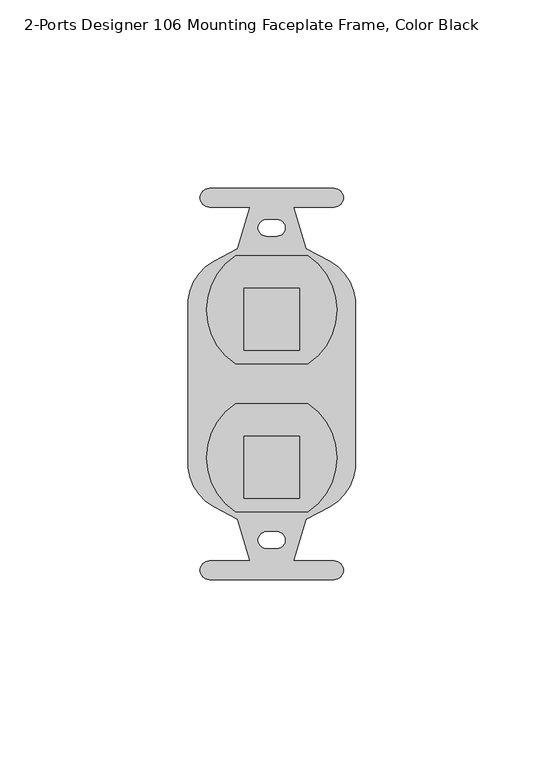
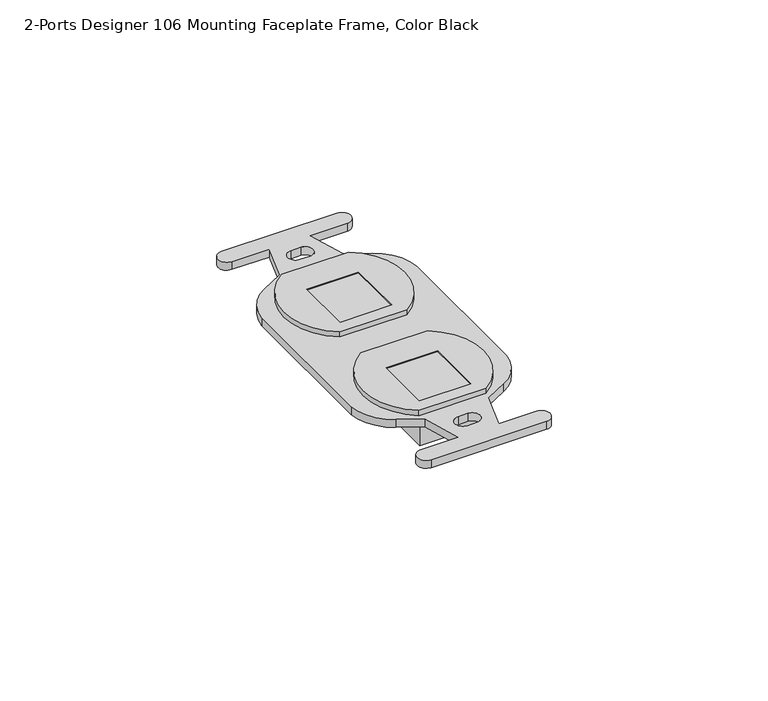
"""IFC4 building model written with IfcOpenShell, lengths in millimetres: electric appliance geometry, Data_Device-Network-Leviton-QuickPort-Duplex : 2-Ports Designer 106 Mounting Faceplate Frame, Color Black."""

import ifcopenshell
import ifcopenshell.guid

model = None  # the IFC model being written
_history = None  # IfcOwnerHistory: only IFC2X3 demands one
_inside = {}  # id of a spatial element -> (the spatial element, [elements in it])
_under = {}  # id of a project, library or spatial element -> (it, [spatial elements below it])
_declared = {}  # id of a project -> (the project, [libraries it declares])
_typed = {}  # id of a type object -> (the type object, [elements of that type])
_made_of = {}  # id of a material, layer set ... -> (it, [elements and type objects made of it])


def new_model(schema):
    """Start an empty IFC model of exactly this schema.

    Asked for "IFC4X3", IfcOpenShell would pick the latest addendum, in which some entities
    have other attributes; the version numbers below select the first issue.
    IFC2X3 requires an IfcOwnerHistory on every rooted entity: one is made here for all.
    """
    global model, _history
    if schema == "IFC4X3":
        model = ifcopenshell.file(schema_version=(4, 3, 0, 0))
    else:
        model = ifcopenshell.file(schema=schema)
    _inside.clear()
    _under.clear()
    _declared.clear()
    _typed.clear()
    _made_of.clear()
    _history = None
    if model.schema == "IFC2X3":
        org = make("IfcOrganization", Name="unknown")
        user = make(
            "IfcPersonAndOrganization",
            ThePerson=make("IfcPerson", FamilyName="unknown"),
            TheOrganization=org,
        )
        app = make(
            "IfcApplication",
            ApplicationDeveloper=org,
            Version="unknown",
            ApplicationFullName="unknown",
            ApplicationIdentifier="unknown",
        )
        _history = make(
            "IfcOwnerHistory",
            OwningUser=user,
            OwningApplication=app,
            ChangeAction="ADDED",
            CreationDate=0,
        )
    return model


def make(cls, **values):
    """One entity of the class cls with the attributes given. An attribute that is None is left unset."""
    return model.create_entity(
        cls, **{name: value for name, value in values.items() if value is not None}
    )


def rooted(cls, **values):
    """An entity with a GlobalId (a new one), such as an element, a storey or a relation."""
    return make(cls, GlobalId=ifcopenshell.guid.new(), OwnerHistory=_history, **values)


def si_unit(unit_type, name, prefix=None):
    """IfcSIUnit, for example si_unit("LENGTHUNIT", "METRE", prefix="MILLI")."""
    return make("IfcSIUnit", UnitType=unit_type, Prefix=prefix, Name=name)


def assignment(units):
    """IfcUnitAssignment: the units of a project."""
    return None if units is None else make("IfcUnitAssignment", Units=units)


def point(xyz):
    """IfcCartesianPoint."""
    return None if xyz is None else make("IfcCartesianPoint", Coordinates=xyz)


def direction(xyz):
    """IfcDirection."""
    return None if xyz is None else make("IfcDirection", DirectionRatios=xyz)


def frame(location, z_axis=None, x_axis=None):
    """IfcAxis2Placement3D, a coordinate frame: its origin and axes. An axis left out is left unset."""
    return make(
        "IfcAxis2Placement3D",
        Location=point(location),
        Axis=direction(z_axis),
        RefDirection=direction(x_axis),
    )


def origin():
    """The frame at (0, 0, 0) with its axes left unset."""
    return frame((0.0, 0.0, 0.0))


def origin_with_axes():
    """The frame at (0, 0, 0) with the z axis (0, 0, 1) and the x axis (1, 0, 0) written out."""
    return frame((0.0, 0.0, 0.0), z_axis=(0.0, 0.0, 1.0), x_axis=(1.0, 0.0, 0.0))


def place(relative_to, where):
    """IfcLocalPlacement: puts the frame where relative to a parent placement (None: the world)."""
    return make(
        "IfcLocalPlacement", PlacementRelTo=relative_to, RelativePlacement=where
    )


def context(
    kind, dimensions, precision=None, world=None, true_north=None, identifier=None
):
    """IfcGeometricRepresentationContext, for example the 3D "Model" context."""
    return make(
        "IfcGeometricRepresentationContext",
        ContextIdentifier=identifier,
        ContextType=kind,
        CoordinateSpaceDimension=dimensions,
        Precision=precision,
        WorldCoordinateSystem=world,
        TrueNorth=true_north,
    )


def project(units=None, contexts=None):
    """IfcProject with its units and contexts."""
    return rooted(
        "IfcProject",
        Name="project",
        RepresentationContexts=contexts,
        UnitsInContext=assignment(units),
    )


def spatial(cls, under=None, at=None, **own):
    """A site, building, storey or space (cls), placed at a placement, below another one or the project."""
    s = rooted(cls, ObjectPlacement=at, **own)
    if under is not None:
        _under.setdefault(under.id(), (under, []))[1].append(s)
    return s


def polyline(points):
    """IfcPolyline through the points."""
    return make("IfcPolyline", Points=[point(p) for p in points])


def circle_curve(where, radius):
    """IfcCircle in the frame where."""
    return make("IfcCircle", Position=where, Radius=radius)


def outline(outer, holes=None, kind="AREA"):
    """IfcArbitraryClosedProfileDef: a profile drawn as a closed curve; with holes, ...WithVoids."""
    if holes is None:
        return make("IfcArbitraryClosedProfileDef", ProfileType=kind, OuterCurve=outer)
    return make(
        "IfcArbitraryProfileDefWithVoids",
        ProfileType=kind,
        OuterCurve=outer,
        InnerCurves=holes,
    )


def extrude(swept, where, along, depth):
    """IfcExtrudedAreaSolid: the profile swept, set in the frame where, extruded along a direction by depth."""
    return make(
        "IfcExtrudedAreaSolid",
        SweptArea=swept,
        Position=where,
        ExtrudedDirection=direction(along),
        Depth=depth,
    )


def shape(context_of_items, identifier, shape_type, items):
    """IfcShapeRepresentation: the items that make up one representation, for example the "Body"."""
    return make(
        "IfcShapeRepresentation",
        ContextOfItems=context_of_items,
        RepresentationIdentifier=identifier,
        RepresentationType=shape_type,
        Items=items,
    )


def source(mapping_origin, context_of_items, identifier, shape_type, items):
    """IfcRepresentationMap: a shape defined once, which mapped items show again and again."""
    return make(
        "IfcRepresentationMap",
        MappingOrigin=mapping_origin,
        MappedRepresentation=shape(context_of_items, identifier, shape_type, items),
    )


def transform(
    local_origin,
    x_axis=None,
    y_axis=None,
    z_axis=None,
    scale=None,
    scale2=None,
    scale3=None,
    uniform=True,
):
    """IfcCartesianTransformationOperator3D, or its non-uniform kind. x_axis, y_axis, z_axis: its Axis1, 2, 3."""
    if uniform:
        return make(
            "IfcCartesianTransformationOperator3D",
            Axis1=direction(x_axis),
            Axis2=direction(y_axis),
            LocalOrigin=point(local_origin),
            Scale=scale,
            Axis3=direction(z_axis),
        )
    return make(
        "IfcCartesianTransformationOperator3DnonUniform",
        Axis1=direction(x_axis),
        Axis2=direction(y_axis),
        LocalOrigin=point(local_origin),
        Scale=scale,
        Axis3=direction(z_axis),
        Scale2=scale2,
        Scale3=scale3,
    )


def mapped(mapping_source, mapping_target):
    """IfcMappedItem: shows the shape of a source again, moved by a transform."""
    return make(
        "IfcMappedItem", MappingSource=mapping_source, MappingTarget=mapping_target
    )


def made_of(thing, what):
    """Note that an element or type object is made of a material, layer set ...; save() writes the relation."""
    if what is not None:
        _made_of.setdefault(what.id(), (what, []))[1].append(thing)
    return thing


def element(
    cls,
    number,
    at=None,
    inside=None,
    cuts=None,
    type_object=None,
    material=None,
    context=None,
    identifier="Body",
    shape_type=None,
    held_by="IfcProductDefinitionShape",
    body=None,
    shapes=None,
    **own,
):
    """One element of the class cls, such as IfcWall. Its Tag is "e" and its number.

    at: its placement. inside: the storey or other place that contains it. cuts: it is an
    opening in that element (IfcRelVoidsElement). A single representation is given by context,
    identifier, shape_type and body (its items); several are given by shapes. held_by: the class
    of the entity that holds the representations. save() writes the other relations.
    """
    e = rooted(cls, Tag="e%d" % number, ObjectPlacement=at, **own)
    if body is not None:
        shapes = [shape(context, identifier, shape_type, body)]
    if shapes is not None:
        e.Representation = make(held_by, Representations=shapes)
    if inside is not None:
        _inside.setdefault(inside.id(), (inside, []))[1].append(e)
    if cuts is not None:
        rooted(
            "IfcRelVoidsElement", RelatingBuildingElement=cuts, RelatedOpeningElement=e
        )
    if type_object is not None:
        _typed.setdefault(type_object.id(), (type_object, []))[1].append(e)
    return made_of(e, material)


def aggregate(whole, parts):
    """IfcRelAggregates: a whole, such as a stair, and the parts it consists of."""
    return rooted("IfcRelAggregates", RelatingObject=whole, RelatedObjects=parts)


def save(model, path):
    """Write the relations noted so far, then the file.

    IfcRelAggregates (storeys below a building ...), IfcRelContainedInSpatialStructure (elements
    in a storey), IfcRelDefinesByType, IfcRelAssociatesMaterial and IfcRelDeclares: one each for
    every whole, place, type object, material and project.
    """
    for whole, parts in _under.values():
        aggregate(whole, parts)
    for where, things in _inside.values():
        rooted(
            "IfcRelContainedInSpatialStructure",
            RelatedElements=things,
            RelatingStructure=where,
        )
    for kind, things in _typed.values():
        rooted("IfcRelDefinesByType", RelatedObjects=things, RelatingType=kind)
    for what, things in _made_of.values():
        rooted("IfcRelAssociatesMaterial", RelatedObjects=things, RelatingMaterial=what)
    for by, libraries in _declared.values():
        rooted("IfcRelDeclares", RelatingContext=by, RelatedDefinitions=libraries)
    model.write(path)


def plane_surface(at):
    """IfcPlane: the flat surface through the origin of the frame at, square to its z axis."""
    return make("IfcPlane", Position=at)


def cylinder_surface(at, radius):
    """IfcCylindricalSurface: all points at the distance radius from the z axis of the frame at."""
    return make("IfcCylindricalSurface", Position=at, Radius=radius)


def revolved_surface(curve, axis_point, axis_direction):
    """IfcSurfaceOfRevolution: the curve turned about the line through axis_point along axis_direction."""
    return make(
        "IfcSurfaceOfRevolution",
        SweptCurve=make("IfcArbitraryOpenProfileDef", ProfileType="CURVE", Curve=curve),
        AxisPosition=make("IfcAxis1Placement", Location=point(axis_point), Axis=direction(axis_direction)),
    )


def advanced_brep(points, edges, surfaces, faces):
    """IfcAdvancedBrep: a solid bounded by faces that lie on surfaces and meet in shared edges.

    An edge is (start, end): straight between two places in points (the first is 0);
    or (start, end, curve); or (start, end, curve, False) where it runs against its curve.
    A face is (place in surfaces, loops), or (place, loops, False) where it looks against
    its surface's normal. A loop lists edges by number (the first is 1), with a minus sign
    where the edge is run from its end to its start. The first loop is the outer one.
    """
    corners = [point(p) for p in points]
    vertices = [make("IfcVertexPoint", VertexGeometry=c) for c in corners]
    made = []
    for start, end, *more in edges:
        made.append(
            make(
                "IfcEdgeCurve",
                EdgeStart=vertices[start],
                EdgeEnd=vertices[end],
                EdgeGeometry=more[0] if more else make("IfcPolyline", Points=[corners[start], corners[end]]),
                SameSense=more[1] if len(more) > 1 else True,
            )
        )
    hull = []
    for where, loops, *sense in faces:
        bounds = []
        for j, loop in enumerate(loops):
            ring = [make("IfcOrientedEdge", EdgeElement=made[abs(k) - 1], Orientation=k > 0) for k in loop]
            bounds.append(
                make(
                    "IfcFaceOuterBound" if j == 0 else "IfcFaceBound",
                    Bound=make("IfcEdgeLoop", EdgeList=ring),
                    Orientation=True,
                )
            )
        hull.append(make("IfcAdvancedFace", Bounds=bounds, FaceSurface=surfaces[where], SameSense=sense[0] if sense else True))
    return make("IfcAdvancedBrep", Outer=make("IfcClosedShell", CfsFaces=hull))


def electric_appliance_2_ports_designer_106_mounting_faceplate_7aad72b4(model_context):
    return source(origin(), model_context, "Body", "SolidModel", [
        advanced_brep(
        [(-32.661072, -28.4547175, 3.924), (-13.439128, -28.4547175, 3.924), (-13.439128, 0.2472825, 3.924), (-32.661072, 0.2472825, 3.924), (-30.4161, -8.3887175, 3.924), (-15.6841, -8.3887175, 3.924), (-15.6841, -24.8225175, 3.924), (-30.4161, -24.8225175, 3.924), (-32.661072, 10.7752825, 3.924), (-13.439128, 10.7752825, 3.924), (-13.439128, 39.4772825, 3.924), (-32.661072, 39.4772825, 3.924), (-30.4161, 14.4074825, 3.924), (-30.4161, 30.8412825, 3.924), (-15.6841, 30.8412825, 3.924), (-15.6841, 14.4074825, 3.924), (-6.5001, 57.3972825, 0.0), (-6.5001, 52.3972825, 0.0), (-17.2501, 52.3972825, 0.0), (-13.9501, 41.3972825, 0.0), (-7.629071, 38.0236727, 0.0), (-0.8001, 27.6939674, 0.0), (-0.8001, -16.7854024, 0.0), (-7.629071, -27.1151077, 0.0), (-13.9501, -30.4887175, 0.0), (-17.2501, -41.4887175, 0.0), (-6.5001, -41.4887175, 0.0), (-6.5001, -46.4887175, 0.0), (-39.5501, -46.4887175, 0.0), (-39.5501, -41.4887175, 0.0), (-28.8001, -41.4887175, 0.0), (-32.1001, -30.4887175, 0.0), (-38.421129, -27.1151077, 0.0), (-45.2501, -16.7854024, 0.0), (-45.2501, 27.6939674, 0.0), (-38.421129, 38.0236727, 0.0), (-32.1001, 41.3972825, 0.0), (-28.8001, 52.3972825, 0.0), (-39.5501, 52.3972825, 0.0), (-39.5501, 57.3972825, 0.0), (-24.4501, -38.1887175, 0.0), (-21.6501, -38.1887175, 0.0), (-21.6501, -33.7887175, 0.0), (-24.4501, -33.7887175, 0.0), (-24.4501, 49.0972825, 0.0), (-24.4501, 44.6972825, 0.0), (-21.6501, 44.6972825, 0.0), (-21.6501, 49.0972825, 0.0), (-14.1351, 11.5973314, 0.0), (-14.1351, 36.068785, 0.0), (-31.9151, 36.068785, 0.0), (-31.9151, 11.5973314, 0.0), (-31.9151, -3.161215, 0.0), (-31.9151, -27.6326686, 0.0), (-14.1351, -27.6326686, 0.0), (-14.1351, -3.161215, 0.0), (-32.661072, -28.4547175, 2.4), (-13.439128, -28.4547175, 2.4), (-13.439128, 0.2472825, 2.4), (-32.661072, 0.2472825, 2.4), (-30.4161, -8.3887175, -7.506), (-15.6841, -8.3887175, -7.506), (-15.6841, -24.8225175, -7.506), (-30.4161, -24.8225175, -7.506), (-32.661072, 10.7752825, 2.4), (-13.439128, 10.7752825, 2.4), (-13.439128, 39.4772825, 2.4), (-32.661072, 39.4772825, 2.4), (-30.4161, 14.4074825, -7.506), (-30.4161, 30.8412825, -7.506), (-15.6841, 30.8412825, -7.506), (-15.6841, 14.4074825, -7.506), (-6.5001, 57.3972825, 2.4), (-39.5501, 57.3972825, 2.4), (-39.5501, 52.3972825, 2.4), (-28.8001, 52.3972825, 2.4), (-32.1001, 41.3972825, 2.4), (-38.421129, 38.0236727, 2.4), (-45.2501, 27.6939674, 2.4), (-45.2501, -16.7854024, 2.4), (-38.421129, -27.1151077, 2.4), (-32.1001, -30.4887175, 2.4), (-28.8001, -41.4887175, 2.4), (-39.5501, -41.4887175, 2.4), (-39.5501, -46.4887175, 2.4), (-6.5001, -46.4887175, 2.4), (-6.5001, -41.4887175, 2.4), (-17.2501, -41.4887175, 2.4), (-13.9501, -30.4887175, 2.4), (-7.629071, -27.1151077, 2.4), (-0.8001, -16.7854024, 2.4), (-0.8001, 27.6939674, 2.4), (-7.629071, 38.0236727, 2.4), (-13.9501, 41.3972825, 2.4), (-17.2501, 52.3972825, 2.4), (-6.5001, 52.3972825, 2.4), (-24.4501, -38.1887175, 2.4), (-24.4501, -33.7887175, 2.4), (-21.6501, -33.7887175, 2.4), (-21.6501, -38.1887175, 2.4), (-24.4501, 49.0972825, 2.4), (-21.6501, 49.0972825, 2.4), (-21.6501, 44.6972825, 2.4), (-24.4501, 44.6972825, 2.4), (-14.1351, 11.5973314, -7.506), (-31.9151, 11.5973314, -7.506), (-31.9151, 36.068785, -7.506), (-14.1351, 36.068785, -7.506), (-31.9151, -3.161215, -7.506), (-14.1351, -3.161215, -7.506), (-14.1351, -27.6326686, -7.506), (-31.9151, -27.6326686, -7.506)],
        [
            (0, 1),
            (1, 2, circle_curve(frame((-23.0501, -14.1037175, 3.924), z_axis=(0.0, 0.0, 1.0), x_axis=(1.0, 0.0, 0.0)), 17.272)),
            (2, 3),
            (3, 0, circle_curve(frame((-23.0501, -14.1037175, 3.924), z_axis=(0.0, 0.0, 1.0), x_axis=(1.0, 0.0, 0.0)), 17.272)),
            (4, 5),
            (5, 6),
            (6, 7),
            (7, 4),
            (8, 9),
            (9, 10, circle_curve(frame((-23.0501, 25.1262825, 3.924), z_axis=(0.0, 0.0, 1.0), x_axis=(1.0, 0.0, 0.0)), 17.272)),
            (10, 11),
            (11, 8, circle_curve(frame((-23.0501, 25.1262825, 3.924), z_axis=(0.0, 0.0, 1.0), x_axis=(1.0, 0.0, 0.0)), 17.272)),
            (12, 13),
            (13, 14),
            (14, 15),
            (15, 12),
            (16, 17, circle_curve(frame((-6.5001, 54.8972825, 0.0), z_axis=(0.0, 0.0, -1.0), x_axis=(1.0, 0.0, 0.0)), 2.5)),
            (17, 18),
            (18, 19),
            (19, 20),
            (20, 21, circle_curve(frame((-13.7501, 26.5548888, 0.0), z_axis=(0.0, 0.0, -1.0), x_axis=(1.0, 0.0, 0.0)), 13.0)),
            (21, 22),
            (22, 23, circle_curve(frame((-13.7501, -15.6463238, 0.0), z_axis=(0.0, 0.0, -1.0), x_axis=(1.0, 0.0, 0.0)), 13.0)),
            (23, 24),
            (24, 25),
            (25, 26),
            (26, 27, circle_curve(frame((-6.5001, -43.9887175, 0.0), z_axis=(0.0, 0.0, -1.0), x_axis=(1.0, 0.0, 0.0)), 2.5)),
            (27, 28),
            (28, 29, circle_curve(frame((-39.5501, -43.9887175, 0.0), z_axis=(0.0, 0.0, -1.0), x_axis=(1.0, 0.0, 0.0)), 2.5)),
            (29, 30),
            (30, 31),
            (31, 32),
            (32, 33, circle_curve(frame((-32.3001, -15.6463238, 0.0), z_axis=(0.0, 0.0, -1.0), x_axis=(1.0, 0.0, 0.0)), 13.0)),
            (33, 34),
            (34, 35, circle_curve(frame((-32.3001, 26.5548888, 0.0), z_axis=(0.0, 0.0, -1.0), x_axis=(1.0, 0.0, 0.0)), 13.0)),
            (35, 36),
            (36, 37),
            (37, 38),
            (38, 39, circle_curve(frame((-39.5501, 54.8972825, 0.0), z_axis=(0.0, 0.0, -1.0), x_axis=(1.0, 0.0, 0.0)), 2.5)),
            (39, 16),
            (40, 41),
            (41, 42, circle_curve(frame((-21.6501, -35.9887175, 0.0), z_axis=(0.0, 0.0, 1.0), x_axis=(1.0, 0.0, 0.0)), 2.2)),
            (42, 43),
            (43, 40, circle_curve(frame((-24.4501, -35.9887175, 0.0), z_axis=(0.0, 0.0, 1.0), x_axis=(1.0, 0.0, 0.0)), 2.2)),
            (44, 45, circle_curve(frame((-24.4501, 46.8972825, 0.0), z_axis=(0.0, 0.0, 1.0), x_axis=(1.0, 0.0, 0.0)), 2.2)),
            (45, 46),
            (46, 47, circle_curve(frame((-21.6501, 46.8972825, 0.0), z_axis=(0.0, 0.0, 1.0), x_axis=(1.0, 0.0, 0.0)), 2.2)),
            (47, 44),
            (48, 49),
            (49, 50),
            (50, 51),
            (51, 48),
            (52, 53),
            (53, 54),
            (54, 55),
            (55, 52),
            (0, 56),
            (56, 57),
            (57, 1),
            (57, 58, circle_curve(frame((-23.0501, -14.1037175, 2.4), z_axis=(0.0, 0.0, 1.0), x_axis=(1.0, 0.0, 0.0)), 17.272)),
            (58, 2),
            (58, 59),
            (59, 3),
            (59, 56, circle_curve(frame((-23.0501, -14.1037175, 2.4), z_axis=(0.0, 0.0, 1.0), x_axis=(1.0, 0.0, 0.0)), 17.272)),
            (4, 60),
            (60, 61),
            (61, 5),
            (61, 62),
            (62, 6),
            (62, 63),
            (63, 7),
            (63, 60),
            (8, 64),
            (64, 65),
            (65, 9),
            (65, 66, circle_curve(frame((-23.0501, 25.1262825, 2.4), z_axis=(0.0, 0.0, 1.0), x_axis=(1.0, 0.0, 0.0)), 17.272)),
            (66, 10),
            (66, 67),
            (67, 11),
            (67, 64, circle_curve(frame((-23.0501, 25.1262825, 2.4), z_axis=(0.0, 0.0, 1.0), x_axis=(1.0, 0.0, 0.0)), 17.272)),
            (12, 68),
            (68, 69),
            (69, 13),
            (69, 70),
            (70, 14),
            (70, 71),
            (71, 15),
            (71, 68),
            (72, 73),
            (73, 74, circle_curve(frame((-39.5501, 54.8972825, 2.4), z_axis=(0.0, 0.0, 1.0), x_axis=(1.0, 0.0, 0.0)), 2.5)),
            (74, 75),
            (75, 76),
            (76, 77),
            (77, 78, circle_curve(frame((-32.3001, 26.5548888, 2.4), z_axis=(0.0, 0.0, 1.0), x_axis=(1.0, 0.0, 0.0)), 13.0)),
            (78, 79),
            (79, 80, circle_curve(frame((-32.3001, -15.6463238, 2.4), z_axis=(0.0, 0.0, 1.0), x_axis=(1.0, 0.0, 0.0)), 13.0)),
            (80, 81),
            (81, 82),
            (82, 83),
            (83, 84, circle_curve(frame((-39.5501, -43.9887175, 2.4), z_axis=(0.0, 0.0, 1.0), x_axis=(1.0, 0.0, 0.0)), 2.5)),
            (84, 85),
            (85, 86, circle_curve(frame((-6.5001, -43.9887175, 2.4), z_axis=(0.0, 0.0, 1.0), x_axis=(1.0, 0.0, 0.0)), 2.5)),
            (86, 87),
            (87, 88),
            (88, 89),
            (89, 90, circle_curve(frame((-13.7501, -15.6463238, 2.4), z_axis=(0.0, 0.0, 1.0), x_axis=(1.0, 0.0, 0.0)), 13.0)),
            (90, 91),
            (91, 92, circle_curve(frame((-13.7501, 26.5548888, 2.4), z_axis=(0.0, 0.0, 1.0), x_axis=(1.0, 0.0, 0.0)), 13.0)),
            (92, 93),
            (93, 94),
            (94, 95),
            (95, 72, circle_curve(frame((-6.5001, 54.8972825, 2.4), z_axis=(0.0, 0.0, 1.0), x_axis=(1.0, 0.0, 0.0)), 2.5)),
            (96, 97, circle_curve(frame((-24.4501, -35.9887175, 2.4), z_axis=(0.0, 0.0, -1.0), x_axis=(1.0, 0.0, 0.0)), 2.2)),
            (97, 98),
            (98, 99, circle_curve(frame((-21.6501, -35.9887175, 2.4), z_axis=(0.0, 0.0, -1.0), x_axis=(1.0, 0.0, 0.0)), 2.2)),
            (99, 96),
            (100, 101),
            (101, 102, circle_curve(frame((-21.6501, 46.8972825, 2.4), z_axis=(0.0, 0.0, -1.0), x_axis=(1.0, 0.0, 0.0)), 2.2)),
            (102, 103),
            (103, 100, circle_curve(frame((-24.4501, 46.8972825, 2.4), z_axis=(0.0, 0.0, -1.0), x_axis=(1.0, 0.0, 0.0)), 2.2)),
            (72, 16),
            (39, 73),
            (38, 74),
            (37, 75),
            (36, 76),
            (35, 77),
            (34, 78),
            (33, 79),
            (32, 80),
            (31, 81),
            (30, 82),
            (29, 83),
            (28, 84),
            (27, 85),
            (26, 86),
            (25, 87),
            (24, 88),
            (23, 89),
            (22, 90),
            (21, 91),
            (20, 92),
            (19, 93),
            (18, 94),
            (17, 95),
            (96, 40),
            (43, 97),
            (42, 98),
            (41, 99),
            (100, 44),
            (47, 101),
            (46, 102),
            (45, 103),
            (104, 105),
            (105, 106),
            (106, 107),
            (107, 104),
            (108, 109),
            (109, 110),
            (110, 111),
            (111, 108),
            (107, 49),
            (48, 104),
            (106, 50),
            (105, 51),
            (111, 53),
            (52, 108),
            (110, 54),
            (109, 55),
        ],
        [
            plane_surface(frame((-13.439128, -28.4547175, 3.924), z_axis=(0.0, 0.0, 1.0), x_axis=(1.0, 0.0, 0.0))),
            plane_surface(frame((-13.439128, -28.4547175, 0.0), z_axis=(0.0, 0.0, -1.0), x_axis=(-1.0, 0.0, 0.0))),
            plane_surface(frame((-32.661072, -28.4547175, 3.924), z_axis=(0.0, -1.0, 0.0), x_axis=(0.0, 0.0, -1.0))),
            cylinder_surface(frame((-23.0501, -14.1037175, 0.0), z_axis=(0.0, 0.0, 1.0), x_axis=(1.0, 0.0, 0.0)), 17.272),
            plane_surface(frame((-13.439128, 0.2472825, 3.924), z_axis=(0.0, 1.0, 0.0), x_axis=(0.0, 0.0, -1.0))),
            plane_surface(frame((-30.4161, -8.3887175, 3.924), z_axis=(0.0, -1.0, 0.0), x_axis=(0.0, 0.0, -1.0))),
            plane_surface(frame((-15.6841, -8.3887175, 3.924), z_axis=(-1.0, 0.0, 0.0), x_axis=(0.0, 0.0, -1.0))),
            plane_surface(frame((-15.6841, -24.8225175, 3.924), z_axis=(0.0, 1.0, 0.0), x_axis=(0.0, 0.0, -1.0))),
            plane_surface(frame((-30.4161, -24.8225175, 3.924), z_axis=(1.0, 0.0, 0.0), x_axis=(0.0, 0.0, -1.0))),
            plane_surface(frame((-32.661072, 10.7752825, 3.924), z_axis=(0.0, -1.0, 0.0), x_axis=(0.0, 0.0, -1.0))),
            cylinder_surface(frame((-23.0501, 25.1262825, 0.0), z_axis=(0.0, 0.0, 1.0), x_axis=(1.0, 0.0, 0.0)), 17.272),
            plane_surface(frame((-13.439128, 39.4772825, 3.924), z_axis=(0.0, 1.0, 0.0), x_axis=(0.0, 0.0, -1.0))),
            plane_surface(frame((-30.4161, 14.4074825, 3.924), z_axis=(1.0, 0.0, 0.0), x_axis=(0.0, 0.0, -1.0))),
            plane_surface(frame((-30.4161, 30.8412825, 3.924), z_axis=(0.0, -1.0, 0.0), x_axis=(0.0, 0.0, -1.0))),
            plane_surface(frame((-15.6841, 30.8412825, 3.924), z_axis=(-1.0, 0.0, 0.0), x_axis=(0.0, 0.0, -1.0))),
            plane_surface(frame((-15.6841, 14.4074825, 3.924), z_axis=(0.0, 1.0, 0.0), x_axis=(0.0, 0.0, -1.0))),
            plane_surface(frame((-861.688236, 57.3972825, 2.4), z_axis=(0.0, 0.0, 1.0), x_axis=(-1.0, 0.0, 0.0))),
            plane_surface(frame((-6.5001, 57.3972825, 2.4), z_axis=(0.0, 1.0, 0.0), x_axis=(0.0, 0.0, -1.0))),
            cylinder_surface(frame((-39.5501, 54.8972825, 0.0), z_axis=(0.0, 0.0, 1.0), x_axis=(1.0, 0.0, 0.0)), 2.5),
            plane_surface(frame((-39.5501, 52.3972825, 2.4), z_axis=(0.0, -1.0, 0.0), x_axis=(0.0, 0.0, -1.0))),
            plane_surface(frame((-28.8001, 52.3972825, 2.4), z_axis=(-0.957826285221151, 0.2873478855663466, 0.0), x_axis=(0.0, 0.0, -1.0))),
            plane_surface(frame((-32.1001, 41.3972825, 2.4), z_axis=(-0.4708483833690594, 0.8822141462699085, 0.0), x_axis=(0.0, 0.0, -1.0))),
            cylinder_surface(frame((-32.3001, 26.5548888, 0.0), z_axis=(0.0, 0.0, 1.0), x_axis=(1.0, 0.0, 0.0)), 13.0),
            plane_surface(frame((-45.2501, 27.6939674, 2.4), z_axis=(-1.0, 0.0, 0.0), x_axis=(0.0, 0.0, -1.0))),
            cylinder_surface(frame((-32.3001, -15.6463238, 0.0), z_axis=(0.0, 0.0, 1.0), x_axis=(1.0, 0.0, 0.0)), 13.0),
            plane_surface(frame((-38.421129, -27.1151077, 2.4), z_axis=(-0.47084838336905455, -0.882214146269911, 0.0), x_axis=(0.0, 0.0, -1.0))),
            plane_surface(frame((-32.1001, -30.4887175, 2.4), z_axis=(-0.9578262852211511, -0.28734788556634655, 0.0), x_axis=(0.0, 0.0, -1.0))),
            plane_surface(frame((-28.8001, -41.4887175, 2.4), z_axis=(0.0, 1.0, 0.0), x_axis=(0.0, 0.0, -1.0))),
            cylinder_surface(frame((-39.5501, -43.9887175, 0.0), z_axis=(0.0, 0.0, 1.0), x_axis=(1.0, 0.0, 0.0)), 2.5),
            plane_surface(frame((-39.5501, -46.4887175, 2.4), z_axis=(0.0, -1.0, 0.0), x_axis=(0.0, 0.0, -1.0))),
            cylinder_surface(frame((-6.5001, -43.9887175, 0.0), z_axis=(0.0, 0.0, 1.0), x_axis=(1.0, 0.0, 0.0)), 2.5),
            plane_surface(frame((-6.5001, -41.4887175, 2.4), z_axis=(0.0, 1.0, 0.0), x_axis=(0.0, 0.0, -1.0))),
            plane_surface(frame((-17.2501, -41.4887175, 2.4), z_axis=(0.957826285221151, -0.2873478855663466, 0.0), x_axis=(0.0, 0.0, -1.0))),
            plane_surface(frame((-13.9501, -30.4887175, 2.4), z_axis=(0.4708483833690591, -0.8822141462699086, 0.0), x_axis=(0.0, 0.0, -1.0))),
            cylinder_surface(frame((-13.7501, -15.6463238, 0.0), z_axis=(0.0, 0.0, 1.0), x_axis=(1.0, 0.0, 0.0)), 13.0),
            plane_surface(frame((-0.8001, -16.7854024, 2.4), z_axis=(1.0, 0.0, 0.0), x_axis=(0.0, 0.0, -1.0))),
            cylinder_surface(frame((-13.7501, 26.5548888, 0.0), z_axis=(0.0, 0.0, 1.0), x_axis=(1.0, 0.0, 0.0)), 13.0),
            plane_surface(frame((-7.629071, 38.0236727, 2.4), z_axis=(0.4708483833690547, 0.8822141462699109, 0.0), x_axis=(0.0, 0.0, -1.0))),
            plane_surface(frame((-13.9501, 41.3972825, 2.4), z_axis=(0.957826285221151, 0.2873478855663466, 0.0), x_axis=(0.0, 0.0, -1.0))),
            plane_surface(frame((-17.2501, 52.3972825, 2.4), z_axis=(0.0, -1.0, 0.0), x_axis=(0.0, 0.0, -1.0))),
            cylinder_surface(frame((-6.5001, 54.8972825, 0.0), z_axis=(0.0, 0.0, 1.0), x_axis=(1.0, 0.0, 0.0)), 2.5),
            revolved_surface(polyline([(-22.2501, -35.9887175, 0.0), (-22.2501, -35.9887175, 2.4)]), (-24.4501, -35.9887175, 0.0), (0.0, 0.0, -1.0)),
            plane_surface(frame((-24.4501, -33.7887175, 2.4), z_axis=(0.0, -1.0, 0.0), x_axis=(0.0, 0.0, -1.0))),
            revolved_surface(polyline([(-19.4501, -35.9887175, 0.0), (-19.4501, -35.9887175, 2.4)]), (-21.6501, -35.9887175, 0.0), (0.0, 0.0, -1.0)),
            plane_surface(frame((-21.6501, -38.1887175, 2.4), z_axis=(0.0, 1.0, 0.0), x_axis=(0.0, 0.0, -1.0))),
            plane_surface(frame((-24.4501, 49.0972825, 2.4), z_axis=(0.0, -1.0, 0.0), x_axis=(0.0, 0.0, -1.0))),
            revolved_surface(polyline([(-19.4501, 46.8972825, 0.0), (-19.4501, 46.8972825, 2.4)]), (-21.6501, 46.8972825, 0.0), (0.0, 0.0, -1.0)),
            plane_surface(frame((-21.6501, 44.6972825, 2.4), z_axis=(0.0, 1.0, 0.0), x_axis=(0.0, 0.0, -1.0))),
            revolved_surface(polyline([(-22.2501, 46.8972825, 0.0), (-22.2501, 46.8972825, 2.4)]), (-24.4501, 46.8972825, 0.0), (0.0, 0.0, -1.0)),
            plane_surface(frame((-14.1351, 43.6404483, -7.506), z_axis=(0.0, 0.0, -1.0), x_axis=(0.0, -1.0, 0.0))),
            plane_surface(frame((-14.1351, 11.5973314, 0.0), z_axis=(1.0, 0.0, 0.0), x_axis=(0.0, 0.0, -1.0))),
            plane_surface(frame((-14.1351, 36.068785, 0.0), z_axis=(0.0, 1.0, 0.0), x_axis=(0.0, 0.0, -1.0))),
            plane_surface(frame((-31.9151, 36.068785, 0.0), z_axis=(-1.0, 0.0, 0.0), x_axis=(0.0, 0.0, -1.0))),
            plane_surface(frame((-31.9151, 11.5973314, 0.0), z_axis=(0.0, -1.0, 0.0), x_axis=(0.0, 0.0, -1.0))),
            plane_surface(frame((-31.9151, -3.161215, 0.0), z_axis=(-1.0, 0.0, 0.0), x_axis=(0.0, 0.0, -1.0))),
            plane_surface(frame((-31.9151, -27.6326686, 0.0), z_axis=(0.0, -1.0, 0.0), x_axis=(0.0, 0.0, -1.0))),
            plane_surface(frame((-14.1351, -27.6326686, 0.0), z_axis=(1.0, 0.0, 0.0), x_axis=(0.0, 0.0, -1.0))),
            plane_surface(frame((-14.1351, -3.161215, 0.0), z_axis=(0.0, 1.0, 0.0), x_axis=(0.0, 0.0, -1.0))),
        ],
        [
            (0, [[1, 2, 3, 4], [5, 6, 7, 8]]),
            (0, [[9, 10, 11, 12], [13, 14, 15, 16]]),
            (1, [[17, 18, 19, 20, 21, 22, 23, 24, 25, 26, 27, 28, 29, 30, 31, 32, 33, 34, 35, 36, 37, 38, 39, 40], [41, 42, 43, 44], [45, 46, 47, 48], [49, 50, 51, 52], [53, 54, 55, 56]]),
            (2, [[-1, 57, 58, 59]]),
            (3, [[-2, -59, 60, 61]]),
            (4, [[-3, -61, 62, 63]]),
            (3, [[-4, -63, 64, -57]]),
            (5, [[-5, 65, 66, 67]]),
            (6, [[-6, -67, 68, 69]]),
            (7, [[-7, -69, 70, 71]]),
            (8, [[-65, -8, -71, 72]]),
            (9, [[-9, 73, 74, 75]]),
            (10, [[-10, -75, 76, 77]]),
            (11, [[-11, -77, 78, 79]]),
            (10, [[-12, -79, 80, -73]]),
            (12, [[-13, 81, 82, 83]]),
            (13, [[-14, -83, 84, 85]]),
            (14, [[-15, -85, 86, 87]]),
            (15, [[-81, -16, -87, 88]]),
            (16, [[89, 90, 91, 92, 93, 94, 95, 96, 97, 98, 99, 100, 101, 102, 103, 104, 105, 106, 107, 108, 109, 110, 111, 112], [-58, -64, -62, -60], [-74, -80, -78, -76], [113, 114, 115, 116], [117, 118, 119, 120]]),
            (17, [[-89, 121, -40, 122]]),
            (18, [[-90, -122, -39, 123]]),
            (19, [[-91, -123, -38, 124]]),
            (20, [[-92, -124, -37, 125]]),
            (21, [[-93, -125, -36, 126]]),
            (22, [[-94, -126, -35, 127]]),
            (23, [[-95, -127, -34, 128]]),
            (24, [[-96, -128, -33, 129]]),
            (25, [[-97, -129, -32, 130]]),
            (26, [[-98, -130, -31, 131]]),
            (27, [[-99, -131, -30, 132]]),
            (28, [[-100, -132, -29, 133]]),
            (29, [[-101, -133, -28, 134]]),
            (30, [[-102, -134, -27, 135]]),
            (31, [[-103, -135, -26, 136]]),
            (32, [[-104, -136, -25, 137]]),
            (33, [[-105, -137, -24, 138]]),
            (34, [[-106, -138, -23, 139]]),
            (35, [[-107, -139, -22, 140]]),
            (36, [[-108, -140, -21, 141]]),
            (37, [[-109, -141, -20, 142]]),
            (38, [[-110, -142, -19, 143]]),
            (39, [[-111, -143, -18, 144]]),
            (40, [[-112, -144, -17, -121]]),
            (41, [[-113, 145, -44, 146]]),
            (42, [[-114, -146, -43, 147]]),
            (43, [[-115, -147, -42, 148]]),
            (44, [[-116, -148, -41, -145]]),
            (45, [[-117, 149, -48, 150]]),
            (46, [[-118, -150, -47, 151]]),
            (47, [[-119, -151, -46, 152]]),
            (48, [[-120, -152, -45, -149]]),
            (49, [[153, 154, 155, 156], [-86, -84, -82, -88]]),
            (49, [[157, 158, 159, 160], [-70, -68, -66, -72]]),
            (50, [[-156, 161, -49, 162]]),
            (51, [[-155, 163, -50, -161]]),
            (52, [[-154, 164, -51, -163]]),
            (53, [[-153, -162, -52, -164]]),
            (54, [[-160, 165, -53, 166]]),
            (55, [[-159, 167, -54, -165]]),
            (56, [[-158, 168, -55, -167]]),
            (57, [[-157, -166, -56, -168]]),
        ],
    ),
        extrude(outline(polyline([(-15.6841, 30.8412825), (-15.6841, 14.4074825), (-30.4161, 14.4074825), (-30.4161, 30.8412825), (-15.6841, 30.8412825)])), origin_with_axes(), (0.0, 0.0, 1.0), 3.924),
        extrude(outline(polyline([(-15.6841, -8.3887175), (-15.6841, -24.8225175), (-30.4161, -24.8225175), (-30.4161, -8.3887175), (-15.6841, -8.3887175)])), origin_with_axes(), (0.0, 0.0, 1.0), 3.924),
    ])


if __name__ == "__main__":
    model = new_model("IFC4")
    model_context = context("Model", 3, world=origin())
    ifc_project = project(units=[si_unit("LENGTHUNIT", "METRE", prefix="MILLI")], contexts=[model_context])
    site = spatial("IfcSite", under=ifc_project)
    building = spatial("IfcBuilding", under=site)
    placement = place(None, origin())
    electric_appliance_2_ports_designer_106_mounting_faceplate_shape = electric_appliance_2_ports_designer_106_mounting_faceplate_7aad72b4(model_context)
    element("IfcElectricAppliance", 1, ObjectType="Data_Device-Network-Leviton-QuickPort-Duplex : 2-Ports Designer 106 Mounting Faceplate Frame, Color Black", at=placement, inside=building, context=model_context, shape_type="MappedRepresentation", body=[
        mapped(electric_appliance_2_ports_designer_106_mounting_faceplate_shape, transform((0.0, 0.0, 0.0), x_axis=(1.0, 0.0, 0.0), y_axis=(0.0, 1.0, 0.0), z_axis=(0.0, 0.0, 1.0))),
    ])
    save(model, "model.ifc")
